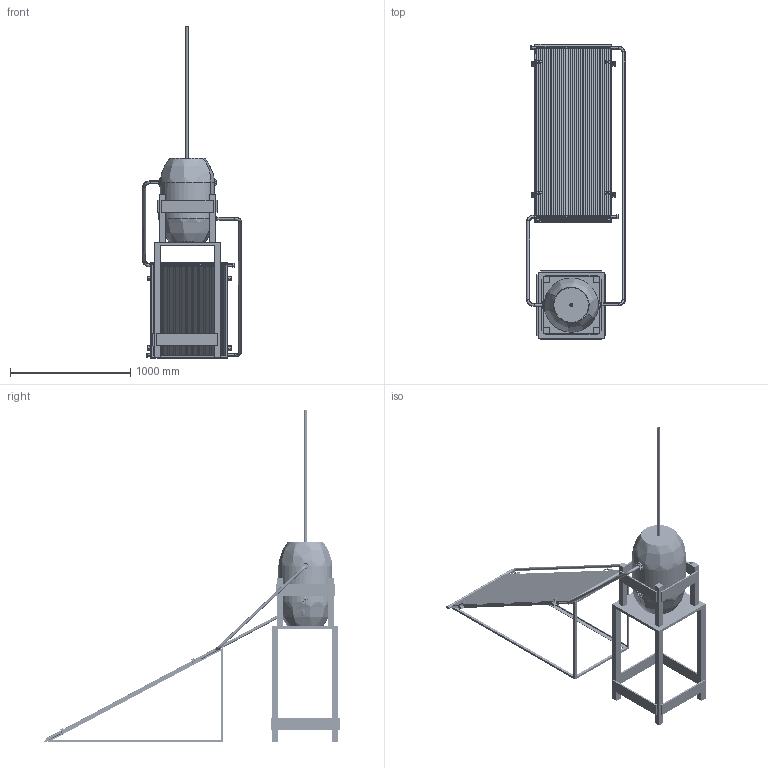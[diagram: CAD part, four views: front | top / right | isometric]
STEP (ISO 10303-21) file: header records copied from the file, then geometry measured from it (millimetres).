
FILE_DESCRIPTION(('CATIA V5 STEP Exchange'),'2;1');
FILE_NAME('C:\Users\Henrique\Desktop\TCC\Montagem_Placa_PVC_V2.stp','2020-12-09T02:08:34+00:00',('none'),('none'),'CATIA Version 5 Release 20 GA (IN-10)','CATIA V5 STEP AP203','none');
FILE_SCHEMA(('CONFIG_CONTROL_DESIGN'));
Products named in the file (4): Product1; Flange PVC 25 x 3_4; BoiaCompleta; Montagem Suporte
Assembly tree (24 placements, depth 3):
  Product1
    #58
    #15176
    Flange PVC 25 x 3_4  x4
      #15897
      #16088
      #29022
    BoiaCompleta
      #77958
      #81843
      #82312
      #82605
      #83074
      #86012
    #86672
    Montagem Suporte
      #89285  x4
      #90146
      #91953
Bounding box: 818.87 x 2461.16 x 2761.65 mm (x, y, z)
Volume: 45546444.8 mm3; surface area: 13340403.9 mm2
Topology: 31 solids, 33 shells, 8931 faces, 21404 edges, 12390 vertices
Faces by surface type: bspline 5312, plane 1529, cylinder 968, torus 570, sphere 420, cone 124, revolution 8
Entity records: 91211 total; most frequent: CARTESIAN_POINT 37067, ORIENTED_EDGE 14976, EDGE_CURVE 7491, DIRECTION 6160, VERTEX_POINT 4422, EDGE_LOOP 3146, ADVANCED_FACE 3048, FACE_OUTER_BOUND 3048
